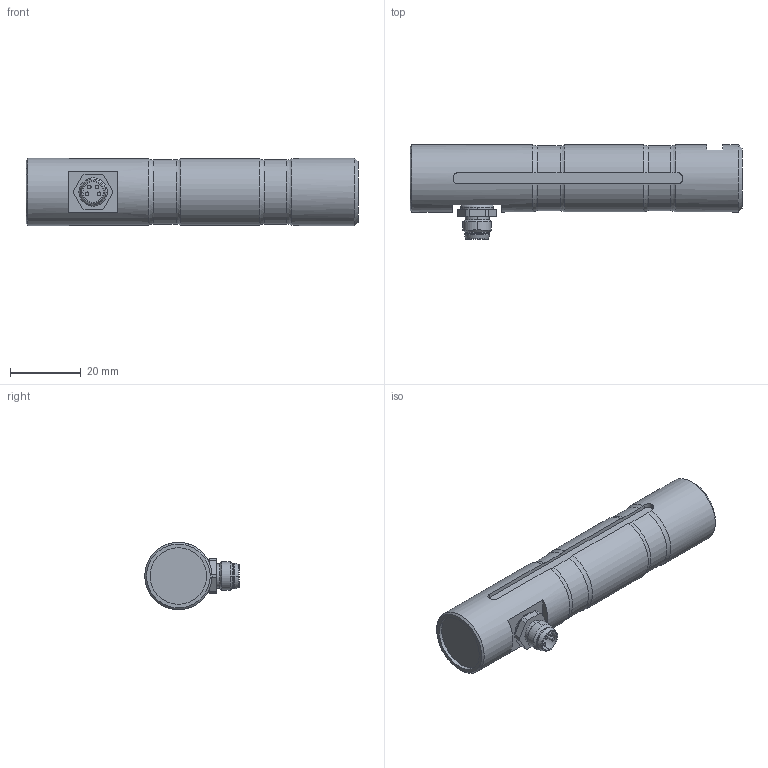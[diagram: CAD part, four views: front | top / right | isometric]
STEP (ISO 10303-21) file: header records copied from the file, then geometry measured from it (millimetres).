
FILE_DESCRIPTION(/* description */ ('Alibre Inc.'),/* implementation_level */ '2;1');
FILE_NAME(/* name */ 'export-AC8B9C90-8734-4060-8A00-72609F58A2A2',/* time_stamp */ '2022-01-25T13:35:29+01:00',/* author */ (''),/* organization */ (''),/* preprocessor_version */ 'ST-DEVELOPER v17',/* originating_system */ 'Alibre',/* authorisation */ '');
FILE_SCHEMA (('CONFIG_CONTROL_DESIGN'));
Length unit declared in the file: millimetre
Bounding box: 94 x 26.74 x 19.04 mm (x, y, z)
Volume: 25909.2 mm3; surface area: 7490.1 mm2
Topology: 2 solids, 2 shells, 119 faces, 291 edges, 195 vertices
Faces by surface type: cylinder 56, plane 43, cone 10, torus 10
Full cylindrical faces by diameter (mm): 1 x4, 7.5 x1, 16 x1, 19.037 x2
Entity records: 3808 total; most frequent: CARTESIAN_POINT 792, ORIENTED_EDGE 574, DIRECTION 529, EDGE_CURVE 287, AXIS2_PLACEMENT_3D 227, VERTEX_POINT 201, EDGE_LOOP 148, FACE_BOUND 148
